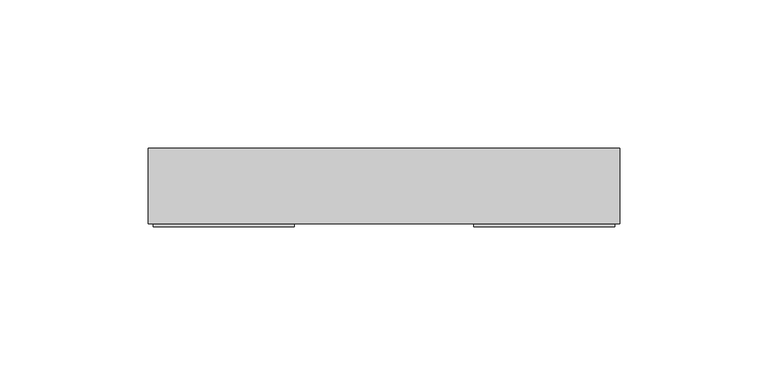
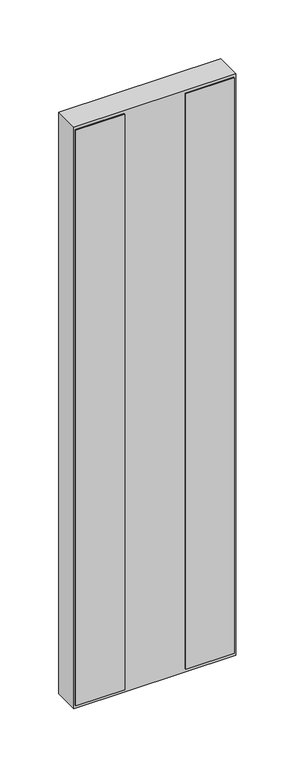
"""IFC4 building model written with IfcOpenShell, lengths in millimetres: proxy geometry, AERO^OFFICE 1_6 x 24 Base-REV2."""

from ifc_helpers import new_model, si_unit, frame, origin, place, context, project, spatial, polyline, outline, extrude, source, transform, mapped, element, save


def generic_models_a2e1cb9b(model_context):
    return source(origin(), model_context, "Body", "SweptSolid", [
        extrude(outline(polyline([(109.5375, 24.384), (157.1625, 24.384), (157.1625, -1.016), (109.5375, -1.016), (109.5375, 24.384)])), frame((0.0, 0.0, -600.075), z_axis=(0.0, 0.0, 1.0), x_axis=(1.0, 0.0, 0.0)), (0.0, 0.0, 1.0), 596.9),
        extrude(outline(polyline([(1.5875, 24.384), (49.2125, 24.384), (49.2125, -1.016), (1.5875, -1.016), (1.5875, 24.384)])), frame((0.0, 0.0, -600.075), z_axis=(0.0, 0.0, 1.0), x_axis=(1.0, 0.0, 0.0)), (0.0, 0.0, 1.0), 596.9),
        extrude(outline(polyline([(158.75, 25.4), (158.75, 0.0), (0.0, 0.0), (0.0, 25.4), (158.75, 25.4)])), frame((0.0, 0.0, -603.25), z_axis=(0.0, 0.0, 1.0), x_axis=(1.0, 0.0, 0.0)), (0.0, 0.0, 1.0), 603.25),
    ])


if __name__ == "__main__":
    model = new_model("IFC4")
    model_context = context("Model", 3, world=origin())
    ifc_project = project(units=[si_unit("LENGTHUNIT", "METRE", prefix="MILLI")], contexts=[model_context])
    site = spatial("IfcSite", under=ifc_project)
    building = spatial("IfcBuilding", under=site)
    placement = place(None, origin())
    generic_models_shape = generic_models_a2e1cb9b(model_context)
    element("IfcBuildingElementProxy", 1, Name="AERO^OFFICE 1_6 x 24 Base-REV2", ObjectType="AERO^OFFICE 1_6 x 24 Base-REV2", at=placement, inside=building, context=model_context, shape_type="MappedRepresentation", body=[
        mapped(generic_models_shape, transform((0.0, 0.0, 0.0), x_axis=(1.0, 0.0, 0.0), y_axis=(0.0, 1.0, 0.0), z_axis=(0.0, 0.0, 1.0))),
    ])
    save(model, "model.ifc")
